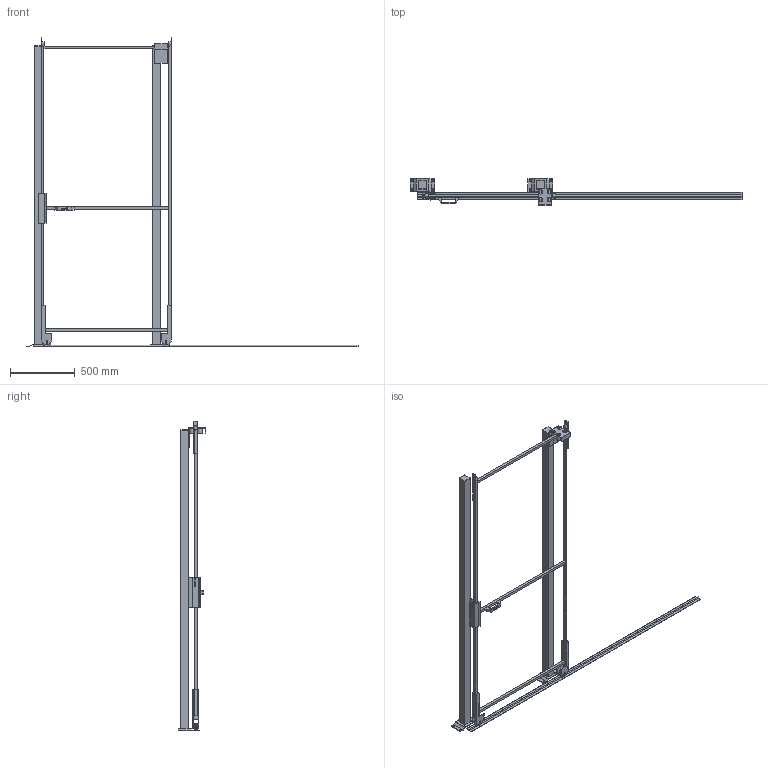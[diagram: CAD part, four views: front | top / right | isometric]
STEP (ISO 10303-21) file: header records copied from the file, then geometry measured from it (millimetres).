
FILE_DESCRIPTION(/* description */ (''),/* implementation_level */ '2;1');
FILE_NAME(/* name */ 'C:\SafeGuarding\ELABORATI\Drawing5_2025-05-05-12-55-52.stp',/* time_stamp */ '2025-05-05T12:55:57+02:00',/* author */ ('admin'),/* organization */ (''),/* preprocessor_version */ 'ST-DEVELOPER v18.1',/* originating_system */ 'AutoCAD Mechanical',/* authorisation */ '');
FILE_SCHEMA (('AUTOMOTIVE_DESIGN { 1 0 10303 214 3 1 1 }'));
Length unit declared in the file: millimetre
Products named in the file (3): Product; R_VFPA.REPE20.10002200; P_VFMA.V260SDU.2320
Assembly tree (3 placements, depth 2):
  Product
    R_VFPA.REPE20.10002200
    P_VFMA.V260SDU.2320  x2
Bounding box: 2561 x 210 x 2390 mm (x, y, z)
Volume: 21856482.1 mm3; surface area: 2861844.1 mm2
Topology: 33 solids, 44 shells, 337 faces, 1052 edges, 993 vertices
Faces by surface type: plane 291, cylinder 40, cone 4, sphere 2
Full cylindrical faces by diameter (mm): 9 x4, 11 x8, 13 x4, 18 x4, 30 x2, 36 x4, 58 x4
Entity records: 10895 total; most frequent: CARTESIAN_POINT 2330, DIRECTION 1664, ORIENTED_EDGE 1526, EDGE_CURVE 812, LINE 734, VECTOR 734, VERTEX_POINT 582, AXIS2_PLACEMENT_3D 465
